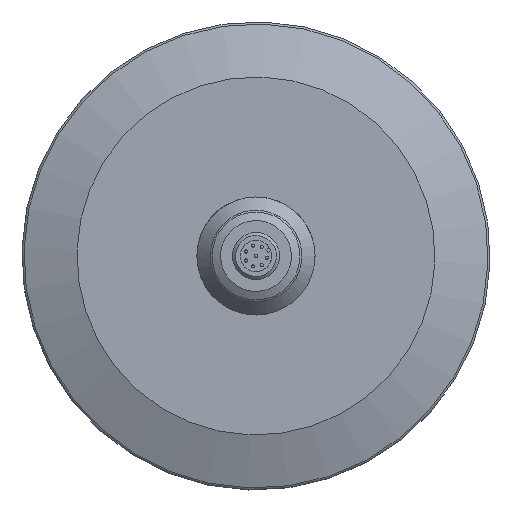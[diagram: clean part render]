
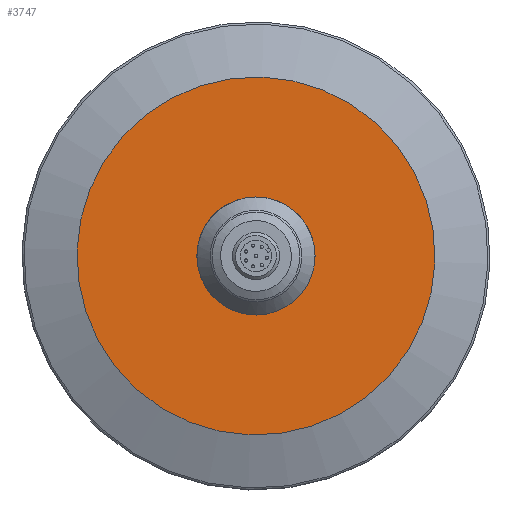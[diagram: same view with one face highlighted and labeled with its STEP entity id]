
A CAD part, front view. The second image highlights one B-rep face of the part: STEP entity #3747.
In plain terms, the highlighted planar face has unit normal (0, -1, 0).
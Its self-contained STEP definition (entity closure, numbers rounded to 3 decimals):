
#594=ORIENTED_EDGE('',*,*,#1330,.F.);
#595=ORIENTED_EDGE('',*,*,#1329,.F.);
#1329=EDGE_CURVE('',#1699,#1699,#1962,.T.);
#1330=EDGE_CURVE('',#1700,#1700,#1963,.T.);
#1699=VERTEX_POINT('',#4586);
#1700=VERTEX_POINT('',#4589);
#1962=CIRCLE('',#3929,45.488);
#1963=CIRCLE('',#3931,15.);
#2034=EDGE_LOOP('',(#594));
#2035=EDGE_LOOP('',(#595));
#2269=FACE_BOUND('',#2034,.T.);
#2270=FACE_BOUND('',#2035,.T.);
#2495=PLANE('',#3930);
#3747=ADVANCED_FACE('',(#2269,#2270),#2495,.T.);
#3929=AXIS2_PLACEMENT_3D('',#4585,#4115,#4116);
#3930=AXIS2_PLACEMENT_3D('',#4587,#4117,#4118);
#3931=AXIS2_PLACEMENT_3D('',#4588,#4119,#4120);
#4115=DIRECTION('',(0.,1.,0.));
#4116=DIRECTION('',(-0.528,0.,-0.849));
#4117=DIRECTION('',(0.,-1.,0.));
#4118=DIRECTION('',(0.528,0.,0.849));
#4119=DIRECTION('',(0.,-1.,0.));
#4120=DIRECTION('',(1.,0.,0.));
#4585=CARTESIAN_POINT('',(0.,-1.101,0.));
#4586=CARTESIAN_POINT('',(-24.039,-1.101,-38.617));
#4587=CARTESIAN_POINT('',(-12.02,-1.101,-19.308));
#4588=CARTESIAN_POINT('',(0.,-1.101,0.));
#4589=CARTESIAN_POINT('',(15.,-1.101,0.));
